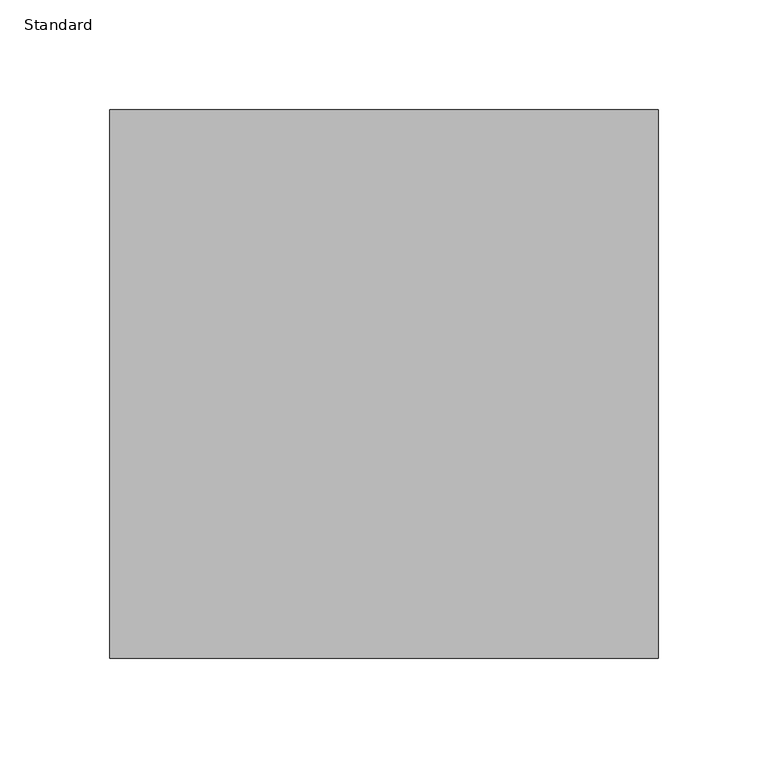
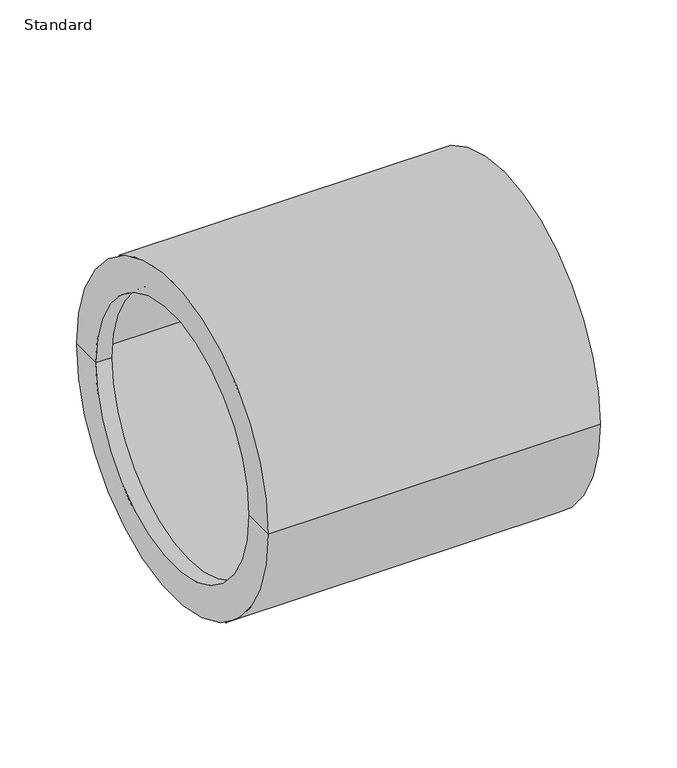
"""IFC4 building model written with IfcOpenShell, lengths in millimetres: pipe fitting geometry, Durapipe_PipeFitting_PVC_ReducingBush : Standard."""

import ifcopenshell
import ifcopenshell.guid

model = None  # the IFC model being written
_history = None  # IfcOwnerHistory: only IFC2X3 demands one
_inside = {}  # id of a spatial element -> (the spatial element, [elements in it])
_under = {}  # id of a project, library or spatial element -> (it, [spatial elements below it])
_declared = {}  # id of a project -> (the project, [libraries it declares])
_typed = {}  # id of a type object -> (the type object, [elements of that type])
_made_of = {}  # id of a material, layer set ... -> (it, [elements and type objects made of it])


def new_model(schema):
    """Start an empty IFC model of exactly this schema.

    Asked for "IFC4X3", IfcOpenShell would pick the latest addendum, in which some entities
    have other attributes; the version numbers below select the first issue.
    IFC2X3 requires an IfcOwnerHistory on every rooted entity: one is made here for all.
    """
    global model, _history
    if schema == "IFC4X3":
        model = ifcopenshell.file(schema_version=(4, 3, 0, 0))
    else:
        model = ifcopenshell.file(schema=schema)
    _inside.clear()
    _under.clear()
    _declared.clear()
    _typed.clear()
    _made_of.clear()
    _history = None
    if model.schema == "IFC2X3":
        org = make("IfcOrganization", Name="unknown")
        user = make(
            "IfcPersonAndOrganization",
            ThePerson=make("IfcPerson", FamilyName="unknown"),
            TheOrganization=org,
        )
        app = make(
            "IfcApplication",
            ApplicationDeveloper=org,
            Version="unknown",
            ApplicationFullName="unknown",
            ApplicationIdentifier="unknown",
        )
        _history = make(
            "IfcOwnerHistory",
            OwningUser=user,
            OwningApplication=app,
            ChangeAction="ADDED",
            CreationDate=0,
        )
    return model


def make(cls, **values):
    """One entity of the class cls with the attributes given. An attribute that is None is left unset."""
    return model.create_entity(
        cls, **{name: value for name, value in values.items() if value is not None}
    )


def rooted(cls, **values):
    """An entity with a GlobalId (a new one), such as an element, a storey or a relation."""
    return make(cls, GlobalId=ifcopenshell.guid.new(), OwnerHistory=_history, **values)


def si_unit(unit_type, name, prefix=None):
    """IfcSIUnit, for example si_unit("LENGTHUNIT", "METRE", prefix="MILLI")."""
    return make("IfcSIUnit", UnitType=unit_type, Prefix=prefix, Name=name)


def assignment(units):
    """IfcUnitAssignment: the units of a project."""
    return None if units is None else make("IfcUnitAssignment", Units=units)


def point(xyz):
    """IfcCartesianPoint."""
    return None if xyz is None else make("IfcCartesianPoint", Coordinates=xyz)


def direction(xyz):
    """IfcDirection."""
    return None if xyz is None else make("IfcDirection", DirectionRatios=xyz)


def frame(location, z_axis=None, x_axis=None):
    """IfcAxis2Placement3D, a coordinate frame: its origin and axes. An axis left out is left unset."""
    return make(
        "IfcAxis2Placement3D",
        Location=point(location),
        Axis=direction(z_axis),
        RefDirection=direction(x_axis),
    )


def origin():
    """The frame at (0, 0, 0) with its axes left unset."""
    return frame((0.0, 0.0, 0.0))


def place(relative_to, where):
    """IfcLocalPlacement: puts the frame where relative to a parent placement (None: the world)."""
    return make(
        "IfcLocalPlacement", PlacementRelTo=relative_to, RelativePlacement=where
    )


def context(
    kind, dimensions, precision=None, world=None, true_north=None, identifier=None
):
    """IfcGeometricRepresentationContext, for example the 3D "Model" context."""
    return make(
        "IfcGeometricRepresentationContext",
        ContextIdentifier=identifier,
        ContextType=kind,
        CoordinateSpaceDimension=dimensions,
        Precision=precision,
        WorldCoordinateSystem=world,
        TrueNorth=true_north,
    )


def project(units=None, contexts=None):
    """IfcProject with its units and contexts."""
    return rooted(
        "IfcProject",
        Name="project",
        RepresentationContexts=contexts,
        UnitsInContext=assignment(units),
    )


def spatial(cls, under=None, at=None, **own):
    """A site, building, storey or space (cls), placed at a placement, below another one or the project."""
    s = rooted(cls, ObjectPlacement=at, **own)
    if under is not None:
        _under.setdefault(under.id(), (under, []))[1].append(s)
    return s


def polyline(points):
    """IfcPolyline through the points."""
    return make("IfcPolyline", Points=[point(p) for p in points])


def circle_curve(where, radius):
    """IfcCircle in the frame where."""
    return make("IfcCircle", Position=where, Radius=radius)


def shape(context_of_items, identifier, shape_type, items):
    """IfcShapeRepresentation: the items that make up one representation, for example the "Body"."""
    return make(
        "IfcShapeRepresentation",
        ContextOfItems=context_of_items,
        RepresentationIdentifier=identifier,
        RepresentationType=shape_type,
        Items=items,
    )


def source(mapping_origin, context_of_items, identifier, shape_type, items):
    """IfcRepresentationMap: a shape defined once, which mapped items show again and again."""
    return make(
        "IfcRepresentationMap",
        MappingOrigin=mapping_origin,
        MappedRepresentation=shape(context_of_items, identifier, shape_type, items),
    )


def transform(
    local_origin,
    x_axis=None,
    y_axis=None,
    z_axis=None,
    scale=None,
    scale2=None,
    scale3=None,
    uniform=True,
):
    """IfcCartesianTransformationOperator3D, or its non-uniform kind. x_axis, y_axis, z_axis: its Axis1, 2, 3."""
    if uniform:
        return make(
            "IfcCartesianTransformationOperator3D",
            Axis1=direction(x_axis),
            Axis2=direction(y_axis),
            LocalOrigin=point(local_origin),
            Scale=scale,
            Axis3=direction(z_axis),
        )
    return make(
        "IfcCartesianTransformationOperator3DnonUniform",
        Axis1=direction(x_axis),
        Axis2=direction(y_axis),
        LocalOrigin=point(local_origin),
        Scale=scale,
        Axis3=direction(z_axis),
        Scale2=scale2,
        Scale3=scale3,
    )


def mapped(mapping_source, mapping_target):
    """IfcMappedItem: shows the shape of a source again, moved by a transform."""
    return make(
        "IfcMappedItem", MappingSource=mapping_source, MappingTarget=mapping_target
    )


def made_of(thing, what):
    """Note that an element or type object is made of a material, layer set ...; save() writes the relation."""
    if what is not None:
        _made_of.setdefault(what.id(), (what, []))[1].append(thing)
    return thing


def element(
    cls,
    number,
    at=None,
    inside=None,
    cuts=None,
    type_object=None,
    material=None,
    context=None,
    identifier="Body",
    shape_type=None,
    held_by="IfcProductDefinitionShape",
    body=None,
    shapes=None,
    **own,
):
    """One element of the class cls, such as IfcWall. Its Tag is "e" and its number.

    at: its placement. inside: the storey or other place that contains it. cuts: it is an
    opening in that element (IfcRelVoidsElement). A single representation is given by context,
    identifier, shape_type and body (its items); several are given by shapes. held_by: the class
    of the entity that holds the representations. save() writes the other relations.
    """
    e = rooted(cls, Tag="e%d" % number, ObjectPlacement=at, **own)
    if body is not None:
        shapes = [shape(context, identifier, shape_type, body)]
    if shapes is not None:
        e.Representation = make(held_by, Representations=shapes)
    if inside is not None:
        _inside.setdefault(inside.id(), (inside, []))[1].append(e)
    if cuts is not None:
        rooted(
            "IfcRelVoidsElement", RelatingBuildingElement=cuts, RelatedOpeningElement=e
        )
    if type_object is not None:
        _typed.setdefault(type_object.id(), (type_object, []))[1].append(e)
    return made_of(e, material)


def aggregate(whole, parts):
    """IfcRelAggregates: a whole, such as a stair, and the parts it consists of."""
    return rooted("IfcRelAggregates", RelatingObject=whole, RelatedObjects=parts)


def save(model, path):
    """Write the relations noted so far, then the file.

    IfcRelAggregates (storeys below a building ...), IfcRelContainedInSpatialStructure (elements
    in a storey), IfcRelDefinesByType, IfcRelAssociatesMaterial and IfcRelDeclares: one each for
    every whole, place, type object, material and project.
    """
    for whole, parts in _under.values():
        aggregate(whole, parts)
    for where, things in _inside.values():
        rooted(
            "IfcRelContainedInSpatialStructure",
            RelatedElements=things,
            RelatingStructure=where,
        )
    for kind, things in _typed.values():
        rooted("IfcRelDefinesByType", RelatedObjects=things, RelatingType=kind)
    for what, things in _made_of.values():
        rooted("IfcRelAssociatesMaterial", RelatedObjects=things, RelatingMaterial=what)
    for by, libraries in _declared.values():
        rooted("IfcRelDeclares", RelatingContext=by, RelatedDefinitions=libraries)
    model.write(path)


def plane_surface(at):
    """IfcPlane: the flat surface through the origin of the frame at, square to its z axis."""
    return make("IfcPlane", Position=at)


def cylinder_surface(at, radius):
    """IfcCylindricalSurface: all points at the distance radius from the z axis of the frame at."""
    return make("IfcCylindricalSurface", Position=at, Radius=radius)


def revolved_surface(curve, axis_point, axis_direction):
    """IfcSurfaceOfRevolution: the curve turned about the line through axis_point along axis_direction."""
    return make(
        "IfcSurfaceOfRevolution",
        SweptCurve=make("IfcArbitraryOpenProfileDef", ProfileType="CURVE", Curve=curve),
        AxisPosition=make("IfcAxis1Placement", Location=point(axis_point), Axis=direction(axis_direction)),
    )


def advanced_brep(points, edges, surfaces, faces):
    """IfcAdvancedBrep: a solid bounded by faces that lie on surfaces and meet in shared edges.

    An edge is (start, end): straight between two places in points (the first is 0);
    or (start, end, curve); or (start, end, curve, False) where it runs against its curve.
    A face is (place in surfaces, loops), or (place, loops, False) where it looks against
    its surface's normal. A loop lists edges by number (the first is 1), with a minus sign
    where the edge is run from its end to its start. The first loop is the outer one.
    """
    corners = [point(p) for p in points]
    vertices = [make("IfcVertexPoint", VertexGeometry=c) for c in corners]
    made = []
    for start, end, *more in edges:
        made.append(
            make(
                "IfcEdgeCurve",
                EdgeStart=vertices[start],
                EdgeEnd=vertices[end],
                EdgeGeometry=more[0] if more else make("IfcPolyline", Points=[corners[start], corners[end]]),
                SameSense=more[1] if len(more) > 1 else True,
            )
        )
    hull = []
    for where, loops, *sense in faces:
        bounds = []
        for j, loop in enumerate(loops):
            ring = [make("IfcOrientedEdge", EdgeElement=made[abs(k) - 1], Orientation=k > 0) for k in loop]
            bounds.append(
                make(
                    "IfcFaceOuterBound" if j == 0 else "IfcFaceBound",
                    Bound=make("IfcEdgeLoop", EdgeList=ring),
                    Orientation=True,
                )
            )
        hull.append(make("IfcAdvancedFace", Bounds=bounds, FaceSurface=surfaces[where], SameSense=sense[0] if sense else True))
    return make("IfcAdvancedBrep", Outer=make("IfcClosedShell", CfsFaces=hull))


def standard_b9ae2978(model_context):
    return source(origin(), model_context, "Body", "AdvancedBrep", [
        advanced_brep(
        [(-12.0, -100.0, 0.0), (-12.0, 100.0, 0.0), (-12.0, 125.0, 0.0), (-12.0, -125.0, 0.0), (0.0, -100.0, 0.0), (0.0, 100.0, 0.0), (0.0, -112.5, 0.0), (0.0, 112.5, 0.0), (238.0, -112.5, 0.0), (238.0, 112.5, 0.0), (238.0, -125.0, 0.0), (238.0, 125.0, 0.0)],
        [
            (0, 1, circle_curve(frame((-12.0, 0.0, 0.0), z_axis=(1.0, 0.0, 0.0), x_axis=(0.0, 1.0, 0.0)), 100.0)),
            (1, 2),
            (2, 3, circle_curve(frame((-12.0, 0.0, 0.0), z_axis=(-1.0, 0.0, 0.0), x_axis=(0.0, 1.0, 0.0)), 125.0)),
            (3, 0),
            (1, 0, circle_curve(frame((-12.0, 0.0, 0.0), z_axis=(1.0, 0.0, 0.0), x_axis=(0.0, 1.0, 0.0)), 100.0)),
            (3, 2, circle_curve(frame((-12.0, 0.0, 0.0), z_axis=(-1.0, 0.0, 0.0), x_axis=(0.0, 1.0, 0.0)), 125.0)),
            (4, 5, circle_curve(frame((0.0, 0.0, 0.0), z_axis=(1.0, 0.0, 0.0), x_axis=(0.0, 1.0, 0.0)), 100.0)),
            (5, 1),
            (0, 4),
            (5, 4, circle_curve(frame((0.0, 0.0, 0.0), z_axis=(1.0, 0.0, 0.0), x_axis=(0.0, 1.0, 0.0)), 100.0)),
            (6, 7, circle_curve(frame((0.0, 0.0, 0.0), z_axis=(1.0, 0.0, 0.0), x_axis=(0.0, 1.0, 0.0)), 112.5)),
            (7, 5),
            (4, 6),
            (7, 6, circle_curve(frame((0.0, 0.0, 0.0), z_axis=(1.0, 0.0, 0.0), x_axis=(0.0, 1.0, 0.0)), 112.5)),
            (8, 9, circle_curve(frame((238.0, 0.0, 0.0), z_axis=(1.0, 0.0, 0.0), x_axis=(0.0, 1.0, 0.0)), 112.5)),
            (9, 7),
            (6, 8),
            (9, 8, circle_curve(frame((238.0, 0.0, 0.0), z_axis=(1.0, 0.0, 0.0), x_axis=(0.0, 1.0, 0.0)), 112.5)),
            (10, 11, circle_curve(frame((238.0, 0.0, 0.0), z_axis=(1.0, 0.0, 0.0), x_axis=(0.0, 1.0, 0.0)), 125.0)),
            (11, 9),
            (8, 10),
            (11, 10, circle_curve(frame((238.0, 0.0, 0.0), z_axis=(1.0, 0.0, 0.0), x_axis=(0.0, 1.0, 0.0)), 125.0)),
            (2, 11),
            (10, 3),
        ],
        [
            plane_surface(frame((-12.0, 0.0, 0.0), z_axis=(-1.0, 0.0, 0.0), x_axis=(0.0, 1.0, 0.0))),
            revolved_surface(polyline([(-12.0, 100.0, 0.0), (0.0, 100.0, 0.0)]), (2224.0, 0.0, 0.0), (-1.0, 0.0, 0.0)),
            plane_surface(frame((0.0, 0.0, 0.0), z_axis=(1.0, 0.0, 0.0), x_axis=(0.0, 1.0, 0.0))),
            revolved_surface(polyline([(0.0, 112.5, 0.0), (238.0, 112.5, 0.0)]), (2224.0, 0.0, 0.0), (-1.0, 0.0, 0.0)),
            plane_surface(frame((238.0, 0.0, 0.0), z_axis=(1.0, 0.0, 0.0), x_axis=(0.0, 1.0, 0.0))),
            cylinder_surface(frame((2224.0, 0.0, 0.0), z_axis=(-1.0, 0.0, 0.0), x_axis=(0.0, 1.0, 0.0)), 125.0),
        ],
        [
            (0, [[1, 2, 3, 4]]),
            (0, [[5, -4, 6, -2]]),
            (1, [[7, 8, -1, 9]]),
            (1, [[10, -9, -5, -8]]),
            (2, [[11, 12, -7, 13]]),
            (2, [[14, -13, -10, -12]]),
            (3, [[15, 16, -11, 17]]),
            (3, [[18, -17, -14, -16]]),
            (4, [[19, 20, -15, 21]]),
            (4, [[22, -21, -18, -20]]),
            (5, [[-3, 23, -19, 24]]),
            (5, [[-6, -24, -22, -23]]),
        ],
    ),
    ])


if __name__ == "__main__":
    model = new_model("IFC4")
    model_context = context("Model", 3, world=origin())
    ifc_project = project(units=[si_unit("LENGTHUNIT", "METRE", prefix="MILLI")], contexts=[model_context])
    site = spatial("IfcSite", under=ifc_project)
    building = spatial("IfcBuilding", under=site)
    placement = place(None, origin())
    standard_shape = standard_b9ae2978(model_context)
    element("IfcPipeFitting", 1, ObjectType="Durapipe_PipeFitting_PVC_ReducingBush : Standard", at=placement, inside=building, context=model_context, shape_type="MappedRepresentation", body=[
        mapped(standard_shape, transform((0.0, 0.0, 0.0), x_axis=(1.0, 0.0, 0.0), y_axis=(0.0, 1.0, 0.0), z_axis=(0.0, 0.0, 1.0))),
    ])
    save(model, "model.ifc")
